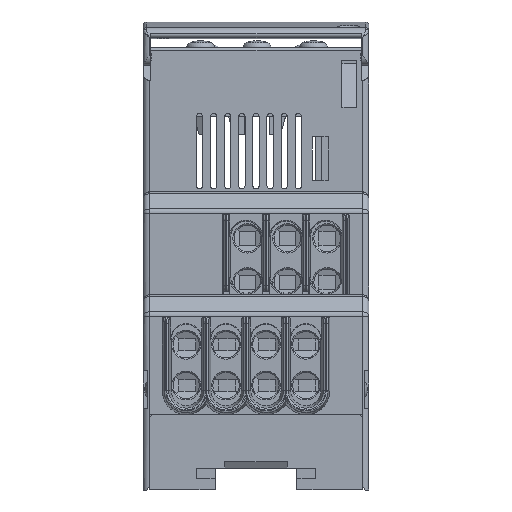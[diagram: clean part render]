
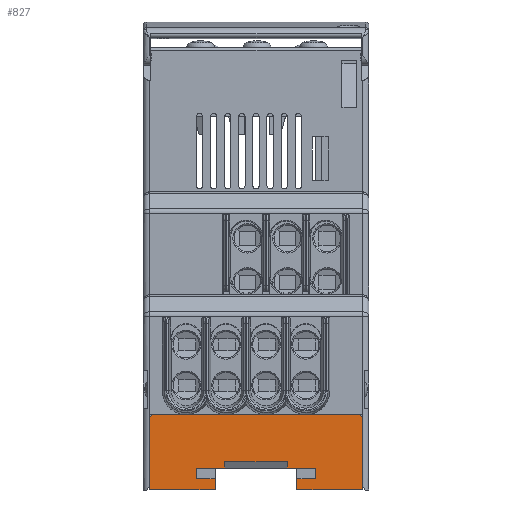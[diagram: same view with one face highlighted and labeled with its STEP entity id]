
A CAD part, front view. The second image highlights one B-rep face of the part: STEP entity #827.
In plain terms, the highlighted planar face has unit normal (0, -1, 0).
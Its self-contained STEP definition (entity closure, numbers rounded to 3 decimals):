
#827 = ADVANCED_FACE ( 'NONE', ( #99219 ), #67962, .F. ) ;
#1464 = CARTESIAN_POINT ( 'NONE',  ( 12., -45., 17. ) ) ;
#1467 = DIRECTION ( 'NONE',  ( 0., 0., -1. ) ) ;
#1769 = CARTESIAN_POINT ( 'NONE',  ( 0., -45., -6.5 ) ) ;
#1771 = DIRECTION ( 'NONE',  ( 1., 0., 0. ) ) ;
#1782 = CARTESIAN_POINT ( 'NONE',  ( 3.5, -45., -6.5 ) ) ;
#1784 = DIRECTION ( 'NONE',  ( 0., 0., 1. ) ) ;
#1786 = CARTESIAN_POINT ( 'NONE',  ( 3.5, -45., -9.5 ) ) ;
#1788 = DIRECTION ( 'NONE',  ( 1., 0., 0. ) ) ;
#1790 = CARTESIAN_POINT ( 'NONE',  ( 1.8, -45., -9.5 ) ) ;
#1792 = DIRECTION ( 'NONE',  ( 0., 0., -1. ) ) ;
#1797 = CARTESIAN_POINT ( 'NONE',  ( 4.5, -45., -5. ) ) ;
#1799 = DIRECTION ( 'NONE',  ( 1., 0., 0. ) ) ;
#1809 = CARTESIAN_POINT ( 'NONE',  ( 4.5, -45., 5. ) ) ;
#1811 = DIRECTION ( 'NONE',  ( 0., 0., -1. ) ) ;
#1817 = CARTESIAN_POINT ( 'NONE',  ( 3.5, -45., 9.5 ) ) ;
#1819 = DIRECTION ( 'NONE',  ( -1., 0., 0. ) ) ;
#1821 = CARTESIAN_POINT ( 'NONE',  ( 1.8, -45., -9.5 ) ) ;
#1823 = DIRECTION ( 'NONE',  ( 0., 0., -1. ) ) ;
#1825 = CARTESIAN_POINT ( 'NONE',  ( 0., -45., 6.5 ) ) ;
#1827 = DIRECTION ( 'NONE',  ( -1., 0., 0. ) ) ;
#1829 = CARTESIAN_POINT ( 'NONE',  ( 12., -45., -16.5 ) ) ;
#1831 = DIRECTION ( 'NONE',  ( 0.707, 0., 0.707 ) ) ;
#1833 = CARTESIAN_POINT ( 'NONE',  ( 12., -45., 16.5 ) ) ;
#1836 = DIRECTION ( 'NONE',  ( -0.707, 0., 0.707 ) ) ;
#3747 = VERTEX_POINT ( 'NONE', #6306 ) ;
#4188 = VERTEX_POINT ( 'NONE', #53297 ) ;
#4275 = VERTEX_POINT ( 'NONE', #53316 ) ;
#4278 = VERTEX_POINT ( 'NONE', #53354 ) ;
#4280 = VERTEX_POINT ( 'NONE', #53288 ) ;
#4389 = VERTEX_POINT ( 'NONE', #57339 ) ;
#4481 = VERTEX_POINT ( 'NONE', #58229 ) ;
#4495 = VERTEX_POINT ( 'NONE', #58339 ) ;
#4590 = VERTEX_POINT ( 'NONE', #57568 ) ;
#4603 = VERTEX_POINT ( 'NONE', #57463 ) ;
#4604 = VERTEX_POINT ( 'NONE', #57469 ) ;
#4606 = VERTEX_POINT ( 'NONE', #57598 ) ;
#4607 = VERTEX_POINT ( 'NONE', #57478 ) ;
#4608 = VERTEX_POINT ( 'NONE', #57618 ) ;
#4609 = VERTEX_POINT ( 'NONE', #57613 ) ;
#4610 = VERTEX_POINT ( 'NONE', #57614 ) ;
#4612 = VERTEX_POINT ( 'NONE', #57616 ) ;
#4636 = VERTEX_POINT ( 'NONE', #57223 ) ;
#6306 = CARTESIAN_POINT ( 'NONE',  ( 11.5, -45., 17. ) ) ;
#7908 = CARTESIAN_POINT ( 'NONE',  ( 12., -45., -17. ) ) ;
#7918 = DIRECTION ( 'NONE',  ( -1., 0., 0. ) ) ;
#7973 = CARTESIAN_POINT ( 'NONE',  ( 0., -45., 17. ) ) ;
#7980 = DIRECTION ( 'NONE',  ( 0., 0., -1. ) ) ;
#8071 = CARTESIAN_POINT ( 'NONE',  ( 12., -45., 17. ) ) ;
#8072 = DIRECTION ( 'NONE',  ( -1., 0., 0. ) ) ;
#8229 = CARTESIAN_POINT ( 'NONE',  ( 3.5, -45., -6.5 ) ) ;
#8231 = DIRECTION ( 'NONE',  ( 0., 0., 1. ) ) ;
#8583 = EDGE_LOOP ( 'NONE', ( #62840, #62832, #62826, #62736, #62804, #62806, #62780, #62741, #62778, #62752, #62723, #62764, #62762, #62727, #62750, #62802, #62798, #62792 ) ) ;
#25464 = LINE ( 'NONE', #28628, #25710 ) ;
#25684 = VECTOR ( 'NONE', #8072, 1000. ) ;
#25689 = LINE ( 'NONE', #8071, #25684 ) ;
#25710 = VECTOR ( 'NONE', #28644, 1000. ) ;
#25806 = VECTOR ( 'NONE', #28701, 1000. ) ;
#26051 = LINE ( 'NONE', #8229, #26222 ) ;
#26156 = LINE ( 'NONE', #28689, #25806 ) ;
#26222 = VECTOR ( 'NONE', #8231, 1000. ) ;
#28628 = CARTESIAN_POINT ( 'NONE',  ( 4.5, -45., 5. ) ) ;
#28644 = DIRECTION ( 'NONE',  ( 1., 0., 0. ) ) ;
#28689 = CARTESIAN_POINT ( 'NONE',  ( 0., -45., 17. ) ) ;
#28701 = DIRECTION ( 'NONE',  ( 0., 0., -1. ) ) ;
#40037 = LINE ( 'NONE', #7908, #40060 ) ;
#40060 = VECTOR ( 'NONE', #7918, 1000. ) ;
#40676 = LINE ( 'NONE', #7973, #40681 ) ;
#40681 = VECTOR ( 'NONE', #7980, 1000. ) ;
#53288 = CARTESIAN_POINT ( 'NONE',  ( 0., -45., -6.5 ) ) ;
#53297 = CARTESIAN_POINT ( 'NONE',  ( 11.5, -45., -17. ) ) ;
#53316 = CARTESIAN_POINT ( 'NONE',  ( 0., -45., 6.5 ) ) ;
#53354 = CARTESIAN_POINT ( 'NONE',  ( 0., -45., 17. ) ) ;
#54041 = EDGE_CURVE ( 'NONE', #4188, #4636, #40037, .T. ) ;
#54107 = EDGE_CURVE ( 'NONE', #4278, #4275, #40676, .T. ) ;
#54176 = EDGE_CURVE ( 'NONE', #3747, #4278, #25689, .T. ) ;
#54282 = EDGE_CURVE ( 'NONE', #4590, #4604, #26051, .T. ) ;
#55239 = EDGE_CURVE ( 'NONE', #4590, #4612, #25464, .T. ) ;
#55267 = EDGE_CURVE ( 'NONE', #4280, #4636, #26156, .T. ) ;
#56161 = EDGE_CURVE ( 'NONE', #4495, #4389, #66481, .T. ) ;
#56344 = EDGE_CURVE ( 'NONE', #4280, #4608, #66505, .T. ) ;
#56351 = EDGE_CURVE ( 'NONE', #4610, #4609, #66562, .T. ) ;
#56353 = EDGE_CURVE ( 'NONE', #4606, #4610, #66490, .T. ) ;
#56356 = EDGE_CURVE ( 'NONE', #4608, #4606, #66431, .T. ) ;
#56360 = EDGE_CURVE ( 'NONE', #4609, #4481, #66633, .T. ) ;
#56366 = EDGE_CURVE ( 'NONE', #4612, #4481, #66611, .T. ) ;
#56370 = EDGE_CURVE ( 'NONE', #4604, #4603, #66510, .T. ) ;
#56372 = EDGE_CURVE ( 'NONE', #4603, #4607, #66506, .T. ) ;
#56374 = EDGE_CURVE ( 'NONE', #4607, #4275, #66498, .T. ) ;
#56376 = EDGE_CURVE ( 'NONE', #4188, #4389, #66223, .T. ) ;
#56378 = EDGE_CURVE ( 'NONE', #4495, #3747, #66220, .T. ) ;
#57223 = CARTESIAN_POINT ( 'NONE',  ( 0., -45., -17. ) ) ;
#57339 = CARTESIAN_POINT ( 'NONE',  ( 12., -45., -16.5 ) ) ;
#57463 = CARTESIAN_POINT ( 'NONE',  ( 1.8, -45., 9.5 ) ) ;
#57469 = CARTESIAN_POINT ( 'NONE',  ( 3.5, -45., 9.5 ) ) ;
#57478 = CARTESIAN_POINT ( 'NONE',  ( 1.8, -45., 6.5 ) ) ;
#57568 = CARTESIAN_POINT ( 'NONE',  ( 3.5, -45., 5. ) ) ;
#57598 = CARTESIAN_POINT ( 'NONE',  ( 1.8, -45., -9.5 ) ) ;
#57613 = CARTESIAN_POINT ( 'NONE',  ( 3.5, -45., -5. ) ) ;
#57614 = CARTESIAN_POINT ( 'NONE',  ( 3.5, -45., -9.5 ) ) ;
#57616 = CARTESIAN_POINT ( 'NONE',  ( 4.5, -45., 5. ) ) ;
#57618 = CARTESIAN_POINT ( 'NONE',  ( 1.8, -45., -6.5 ) ) ;
#58229 = CARTESIAN_POINT ( 'NONE',  ( 4.5, -45., -5. ) ) ;
#58339 = CARTESIAN_POINT ( 'NONE',  ( 12., -45., 16.5 ) ) ;
#62723 = ORIENTED_EDGE ( 'NONE', *, *, #55239, .T. ) ;
#62727 = ORIENTED_EDGE ( 'NONE', *, *, #56351, .F. ) ;
#62736 = ORIENTED_EDGE ( 'NONE', *, *, #56378, .T. ) ;
#62741 = ORIENTED_EDGE ( 'NONE', *, *, #56372, .F. ) ;
#62750 = ORIENTED_EDGE ( 'NONE', *, *, #56353, .F. ) ;
#62752 = ORIENTED_EDGE ( 'NONE', *, *, #54282, .F. ) ;
#62762 = ORIENTED_EDGE ( 'NONE', *, *, #56360, .F. ) ;
#62764 = ORIENTED_EDGE ( 'NONE', *, *, #56366, .T. ) ;
#62778 = ORIENTED_EDGE ( 'NONE', *, *, #56370, .F. ) ;
#62780 = ORIENTED_EDGE ( 'NONE', *, *, #56374, .F. ) ;
#62792 = ORIENTED_EDGE ( 'NONE', *, *, #55267, .T. ) ;
#62798 = ORIENTED_EDGE ( 'NONE', *, *, #56344, .F. ) ;
#62802 = ORIENTED_EDGE ( 'NONE', *, *, #56356, .F. ) ;
#62804 = ORIENTED_EDGE ( 'NONE', *, *, #54176, .T. ) ;
#62806 = ORIENTED_EDGE ( 'NONE', *, *, #54107, .T. ) ;
#62826 = ORIENTED_EDGE ( 'NONE', *, *, #56161, .F. ) ;
#62832 = ORIENTED_EDGE ( 'NONE', *, *, #56376, .T. ) ;
#62840 = ORIENTED_EDGE ( 'NONE', *, *, #54041, .F. ) ;
#65961 = VECTOR ( 'NONE', #1467, 1000. ) ;
#65963 = VECTOR ( 'NONE', #1788, 1000. ) ;
#66190 = VECTOR ( 'NONE', #1836, 1000. ) ;
#66198 = VECTOR ( 'NONE', #1831, 1000. ) ;
#66200 = VECTOR ( 'NONE', #1823, 1000. ) ;
#66220 = LINE ( 'NONE', #1833, #66190 ) ;
#66221 = VECTOR ( 'NONE', #1827, 1000. ) ;
#66223 = LINE ( 'NONE', #1829, #66198 ) ;
#66431 = LINE ( 'NONE', #1790, #66639 ) ;
#66477 = VECTOR ( 'NONE', #1784, 1000. ) ;
#66481 = LINE ( 'NONE', #1464, #65961 ) ;
#66490 = LINE ( 'NONE', #1786, #65963 ) ;
#66498 = LINE ( 'NONE', #1825, #66221 ) ;
#66501 = VECTOR ( 'NONE', #1771, 1000. ) ;
#66504 = VECTOR ( 'NONE', #1819, 1000. ) ;
#66505 = LINE ( 'NONE', #1769, #66501 ) ;
#66506 = LINE ( 'NONE', #1821, #66200 ) ;
#66510 = LINE ( 'NONE', #1817, #66504 ) ;
#66512 = VECTOR ( 'NONE', #1811, 1000. ) ;
#66562 = LINE ( 'NONE', #1782, #66477 ) ;
#66611 = LINE ( 'NONE', #1809, #66512 ) ;
#66631 = VECTOR ( 'NONE', #1799, 1000. ) ;
#66633 = LINE ( 'NONE', #1797, #66631 ) ;
#66639 = VECTOR ( 'NONE', #1792, 1000. ) ;
#67874 = CARTESIAN_POINT ( 'NONE',  ( 12., -45., 17. ) ) ;
#67886 = DIRECTION ( 'NONE',  ( 0., 0., 1. ) ) ;
#67891 = DIRECTION ( 'NONE',  ( 0., 1., 0. ) ) ;
#67962 = PLANE ( 'NONE',  #98181 ) ;
#98181 = AXIS2_PLACEMENT_3D ( 'NONE', #67874, #67891, #67886 ) ;
#99219 = FACE_OUTER_BOUND ( 'NONE', #8583, .T. ) ;
